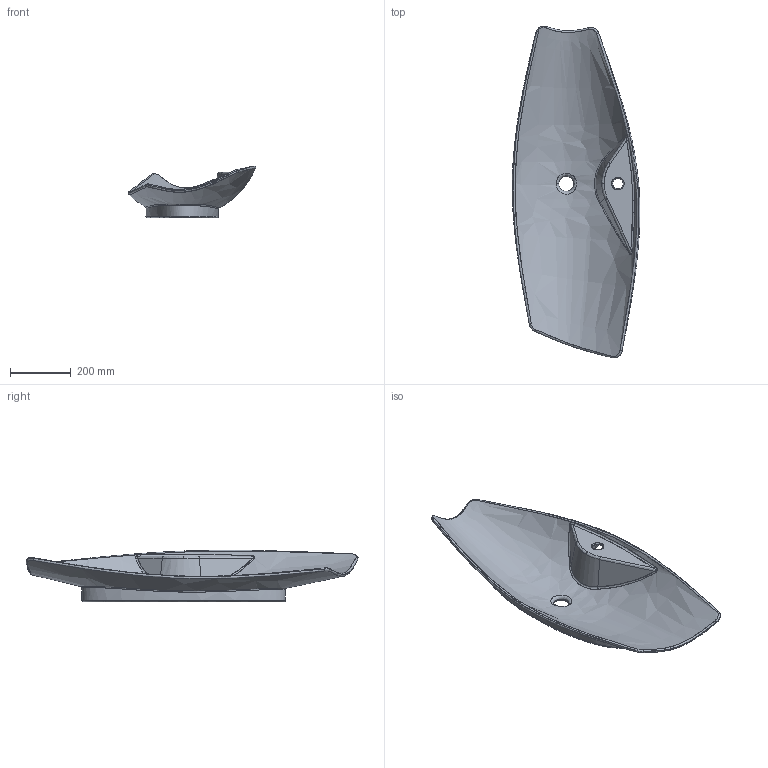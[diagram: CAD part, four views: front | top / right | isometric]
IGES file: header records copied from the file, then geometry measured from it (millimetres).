
Start section: C
Global section: file name: Kong 110-R.igs; native system:  By UGS Corp.; preprocessor: XPlus GENERIC/IGES 3.0; author: Author; organization: Title; date: 20120323.173609; units: millimetre
Bounding box: 419.97 x 1093.09 x 169.71 mm (x, y, z)
Surface area: 964892.4 mm2 (no closed solid volume)
Topology: 0 solids, 0 shells, 51 faces, 240 edges, 240 vertices
Faces by surface type: bspline 51
